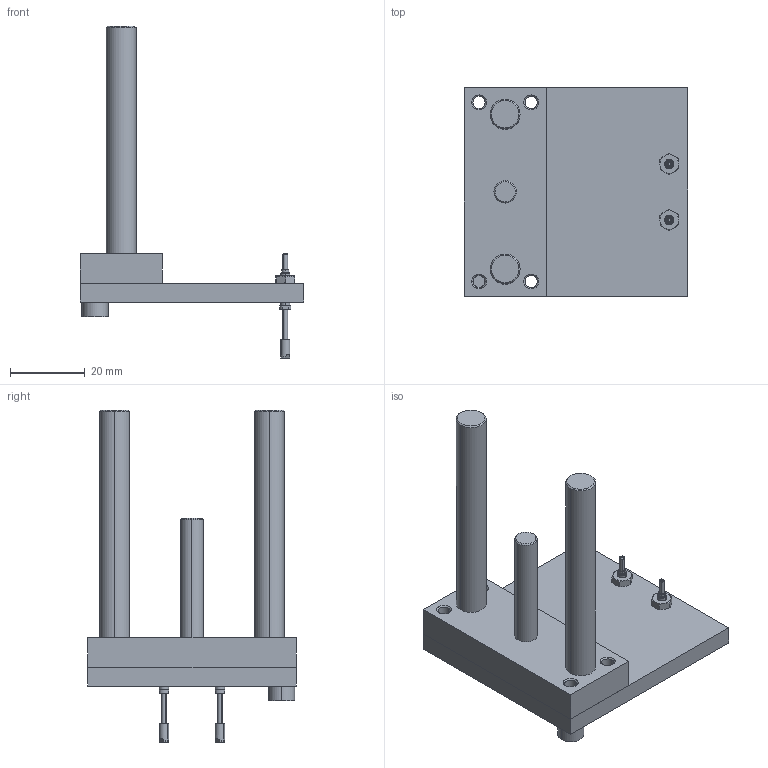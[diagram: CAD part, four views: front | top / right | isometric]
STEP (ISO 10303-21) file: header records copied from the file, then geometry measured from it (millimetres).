
FILE_DESCRIPTION (( 'STEP AP214' ), '1' );
FILE_NAME ('14_X-Y-Z_directions_movable_and_continuity_inspection_mechanism_Z.STEP', '2021-02-09T02:13:55', ( '' ), ( '' ), 'SwSTEP 2.0', 'SolidWorks 2017', '' );
FILE_SCHEMA (( 'AUTOMOTIVE_DESIGN' ));
Length unit declared in the file: millimetre
Products named in the file (13): 0405_Z_FNP13N-A_2; _0405_SA03; 0405_302_CBM4-10; 0405_207_Plate; 0405_Z_FNP13N-A_1; 0405_Z_FNP13N-A_3; 14_X-Y-Z_directions_movable_and_continuity_inspection_mechanism_Z; 0405_Z_MGCLF12-30_1; _0405_SSA01; 0405_003_MGCLF12-30; _0405_Assy; 0405_Z_FNP13N-A_4; 0405_006_FNP13N-A
Assembly tree (13 placements, depth 6):
  14_X-Y-Z_directions_movable_and_continuity_inspection_mechanism_Z
    _0405_Assy
      _0405_SA03
        _0405_SSA01
          0405_003_MGCLF12-30
            0405_Z_MGCLF12-30_1
        0405_006_FNP13N-A  x2
          0405_Z_FNP13N-A_1
          0405_Z_FNP13N-A_2
          0405_Z_FNP13N-A_3
          0405_Z_FNP13N-A_4
        0405_207_Plate
        0405_302_CBM4-10
Bounding box: 60 x 56 x 89 mm (x, y, z)
Volume: 33267.8 mm3; surface area: 17370.6 mm2
Topology: 11 solids, 11 shells, 250 faces, 554 edges, 334 vertices
Faces by surface type: plane 88, cylinder 80, cone 78, bspline 4
Entity records: 7698 total; most frequent: CARTESIAN_POINT 1015, DIRECTION 964, ORIENTED_EDGE 814, EDGE_CURVE 407, AXIS2_PLACEMENT_3D 393, VERTEX_POINT 250, EDGE_LOOP 227, UNCERTAINTY_MEASURE_WITH_UNIT 213
